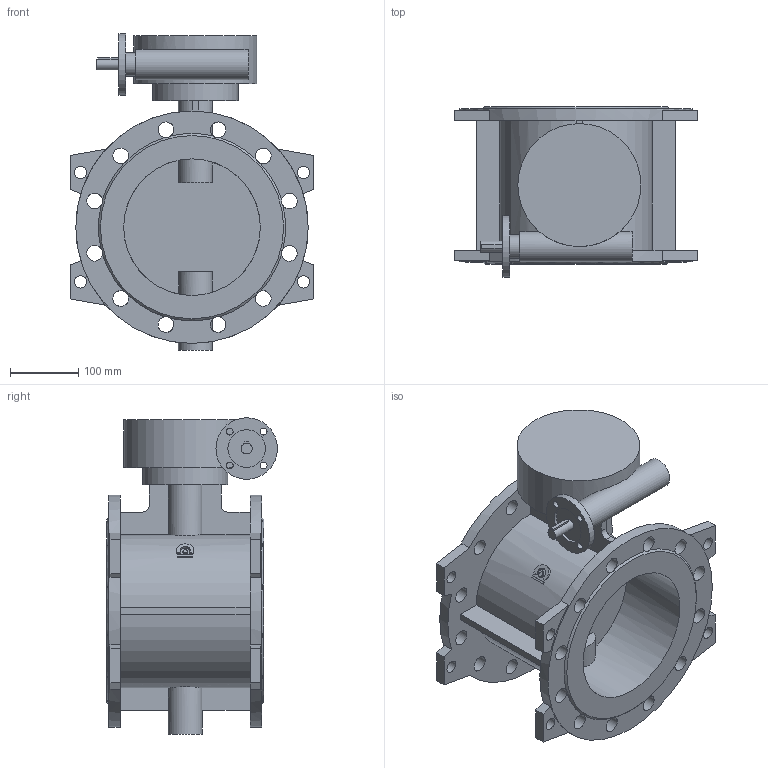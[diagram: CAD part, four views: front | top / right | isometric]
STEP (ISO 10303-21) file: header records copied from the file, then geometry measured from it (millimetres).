
FILE_DESCRIPTION(('STEP AP203'), '1');
FILE_NAME('Çàòâîð 023F.Z DN200 PN16_ð-ð_ôë', '', ('UNSPECIFIED'), ('UNSPECIFIED'), 'ASCON STEP Converter 1.6', 'ASCON Math Kernel', '');
FILE_SCHEMA(('CONFIG_CONTROL_DESIGN'));
Length unit declared in the file: millimetre
Bounding box: 356 x 250 x 463 mm (x, y, z)
Volume: 7555262.5 mm3; surface area: 828392.5 mm2
Topology: 1 solids, 1 shells, 170 faces, 505 edges, 336 vertices
Faces by surface type: plane 95, cylinder 73, cone 2
Full cylindrical faces by diameter (mm): 8.3 x4, 10 x4, 12 x4, 16 x1, 18 x8, 23 x24, 34 x1, 44 x1, 50 x1, 55 x1, 90 x1, 125 x1, 180 x1, 200 x2, 340 x2
Entity records: 9456 total; most frequent: CARTESIAN_POINT 3474, DIRECTION 956, ORIENTED_EDGE 888, EDGE_CURVE 444, AXIS2_PLACEMENT_3D 383, VERTEX_POINT 336, EDGE_LOOP 302, FACE_BOUND 216
